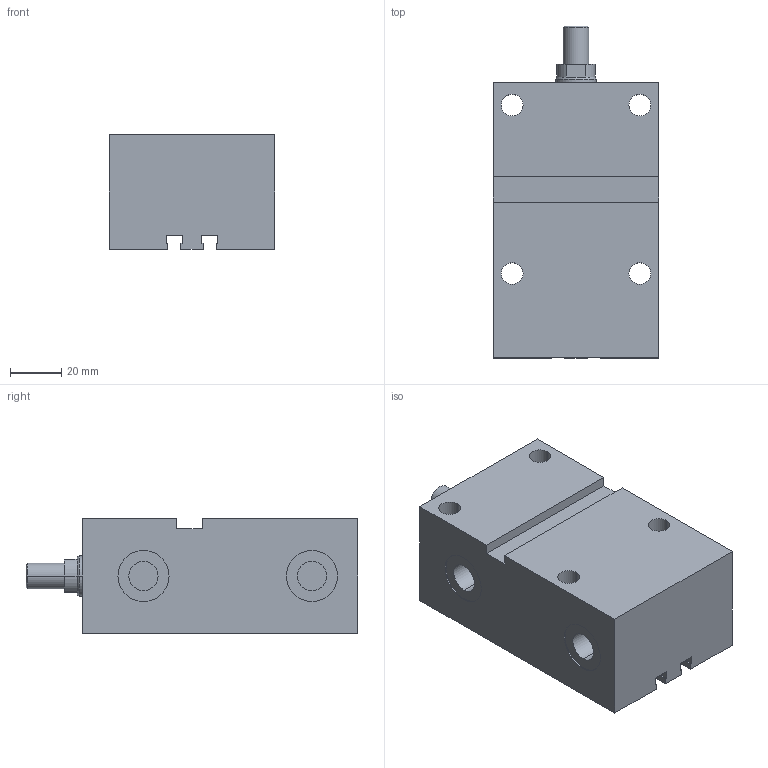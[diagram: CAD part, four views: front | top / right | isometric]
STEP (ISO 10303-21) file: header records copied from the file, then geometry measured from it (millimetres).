
FILE_DESCRIPTION (( 'STEP AP203' ), '1' );
FILE_NAME ('GERMA_Blockzylinder_701-025-050-A.STEP', '2016-08-01T17:00:35', ( '' ), ( '' ), 'SwSTEP 2.0', 'SolidWorks 2015', '' );
FILE_SCHEMA (( 'CONFIG_CONTROL_DESIGN' ));
Length unit declared in the file: millimetre
Products named in the file (3): Kolben_MT 70x-025_Kolben_MT DU.25-Hub50-AG; GH-700-025_GH-701-025-050; GERMA_Blockzylinder_701-025-050-A
Assembly tree (2 placements, depth 2):
  GERMA_Blockzylinder_701-025-050-A
    GH-700-025_GH-701-025-050
    Kolben_MT 70x-025_Kolben_MT DU.25-Hub50-AG
Bounding box: 65 x 130 x 45 mm (x, y, z)
Volume: 280456.5 mm3; surface area: 52600.8 mm2
Topology: 2 solids, 2 shells, 92 faces, 216 edges, 137 vertices
Faces by surface type: plane 43, cylinder 37, cone 12
Entity records: 2938 total; most frequent: DIRECTION 491, CARTESIAN_POINT 446, ORIENTED_EDGE 424, EDGE_CURVE 212, AXIS2_PLACEMENT_3D 182, VERTEX_POINT 137, LINE 127, VECTOR 127
